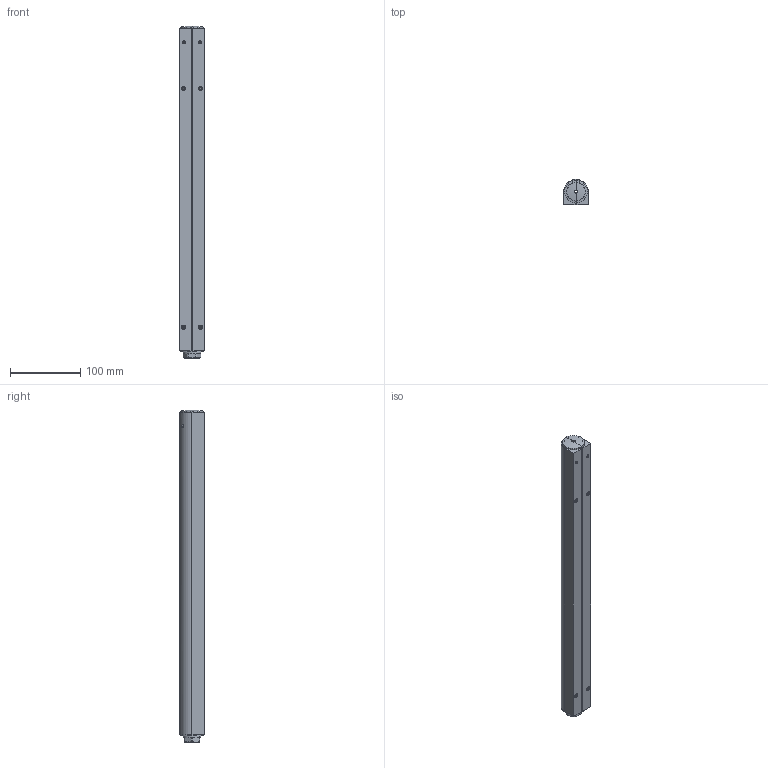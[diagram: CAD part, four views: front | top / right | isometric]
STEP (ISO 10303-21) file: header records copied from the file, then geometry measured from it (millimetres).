
FILE_DESCRIPTION (( 'STEP AP203' ), '1' );
FILE_NAME ('CBX31.STEP', '2014-02-06T20:53:45', ( '' ), ( '' ), 'SwSTEP 2.0', 'SolidWorks 2013', '' );
FILE_SCHEMA (( 'CONFIG_CONTROL_DESIGN' ));
Length unit declared in the file: millimetre
Products named in the file (1): CBX31
Bounding box: 35 x 35 x 472.65 mm (x, y, z)
Volume: 307672.6 mm3; surface area: 202145.6 mm2
Topology: 7 solids, 15 shells, 898 faces, 2413 edges, 1579 vertices
Faces by surface type: plane 326, cylinder 264, bspline 206, cone 62, torus 32, sphere 8
Entity records: 38904 total; most frequent: CARTESIAN_POINT 18633, ORIENTED_EDGE 4826, DIRECTION 3321, EDGE_CURVE 2413, VERTEX_POINT 1579, AXIS2_PLACEMENT_3D 1284, EDGE_LOOP 962, B_SPLINE_CURVE_WITH_KNOTS 922
